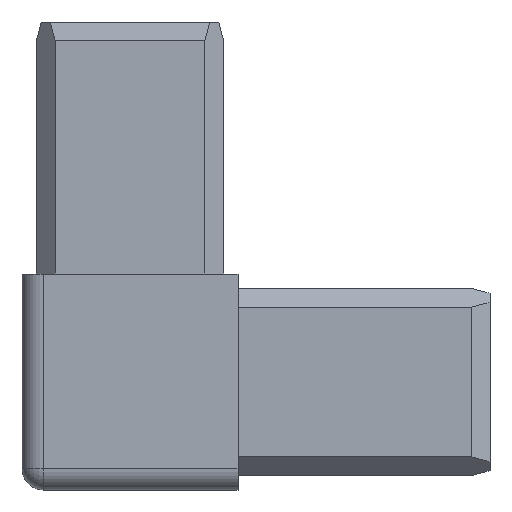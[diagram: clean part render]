
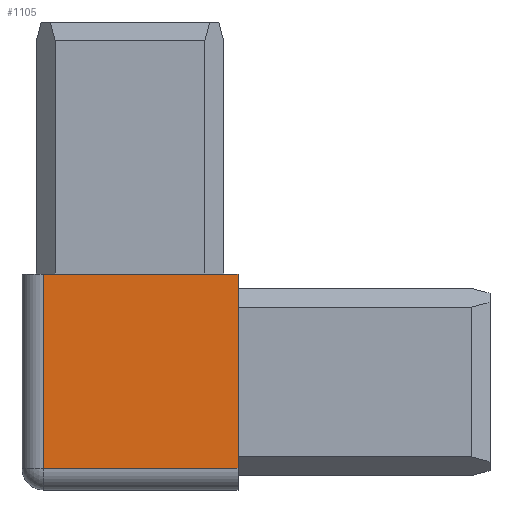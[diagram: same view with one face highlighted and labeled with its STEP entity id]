
A CAD part, left-side view. The second image highlights one B-rep face of the part: STEP entity #1105.
In plain terms, the highlighted planar face has unit normal (-1, 0, 0).
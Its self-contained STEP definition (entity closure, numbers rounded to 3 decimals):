
#29 = DIRECTION ( 'NONE',  ( 0., -1., 0. ) ) ;
#49 = DIRECTION ( 'NONE',  ( 0., 1., 0. ) ) ;
#53 = VERTEX_POINT ( 'NONE', #248 ) ;
#91 = ORIENTED_EDGE ( 'NONE', *, *, #875, .F. ) ;
#113 = VERTEX_POINT ( 'NONE', #1560 ) ;
#160 = CARTESIAN_POINT ( 'NONE',  ( -15., 12., 50. ) ) ;
#248 = CARTESIAN_POINT ( 'NONE',  ( -15., 12., -12. ) ) ;
#338 = FACE_OUTER_BOUND ( 'NONE', #1381, .T. ) ;
#447 = CARTESIAN_POINT ( 'NONE',  ( -15., -50., 15. ) ) ;
#466 = VECTOR ( 'NONE', #1565, 1000. ) ;
#573 = CARTESIAN_POINT ( 'NONE',  ( -15., 12., 15. ) ) ;
#589 = CARTESIAN_POINT ( 'NONE',  ( -15., 15., -12. ) ) ;
#605 = EDGE_CURVE ( 'NONE', #1359, #53, #826, .T. ) ;
#679 = CARTESIAN_POINT ( 'NONE',  ( -15., -15., 15. ) ) ;
#749 = LINE ( 'NONE', #447, #949 ) ;
#804 = AXIS2_PLACEMENT_3D ( 'NONE', #1140, #1041, #1716 ) ;
#826 = LINE ( 'NONE', #160, #466 ) ;
#875 = EDGE_CURVE ( 'NONE', #113, #1590, #1777, .T. ) ;
#908 = PLANE ( 'NONE',  #804 ) ;
#922 = CARTESIAN_POINT ( 'NONE',  ( -15., -15., -12. ) ) ;
#949 = VECTOR ( 'NONE', #49, 1000. ) ;
#979 = VECTOR ( 'NONE', #1087, 1000. ) ;
#992 = VECTOR ( 'NONE', #29, 1000. ) ;
#1010 = ORIENTED_EDGE ( 'NONE', *, *, #605, .T. ) ;
#1022 = ORIENTED_EDGE ( 'NONE', *, *, #1136, .T. ) ;
#1041 = DIRECTION ( 'NONE',  ( 1., 0., 0. ) ) ;
#1087 = DIRECTION ( 'NONE',  ( 0., 0., -1. ) ) ;
#1105 = ADVANCED_FACE ( 'NONE', ( #338 ), #908, .F. ) ;
#1128 = ORIENTED_EDGE ( 'NONE', *, *, #1435, .T. ) ;
#1136 = EDGE_CURVE ( 'NONE', #113, #1359, #749, .T. ) ;
#1140 = CARTESIAN_POINT ( 'NONE',  ( -15., 15., 50. ) ) ;
#1359 = VERTEX_POINT ( 'NONE', #573 ) ;
#1381 = EDGE_LOOP ( 'NONE', ( #1022, #1010, #1128, #91 ) ) ;
#1435 = EDGE_CURVE ( 'NONE', #53, #1590, #1558, .T. ) ;
#1558 = LINE ( 'NONE', #589, #992 ) ;
#1560 = CARTESIAN_POINT ( 'NONE',  ( -15., -15., 15. ) ) ;
#1565 = DIRECTION ( 'NONE',  ( 0., 0., -1. ) ) ;
#1590 = VERTEX_POINT ( 'NONE', #922 ) ;
#1716 = DIRECTION ( 'NONE',  ( 0., 1., 0. ) ) ;
#1777 = LINE ( 'NONE', #679, #979 ) ;
